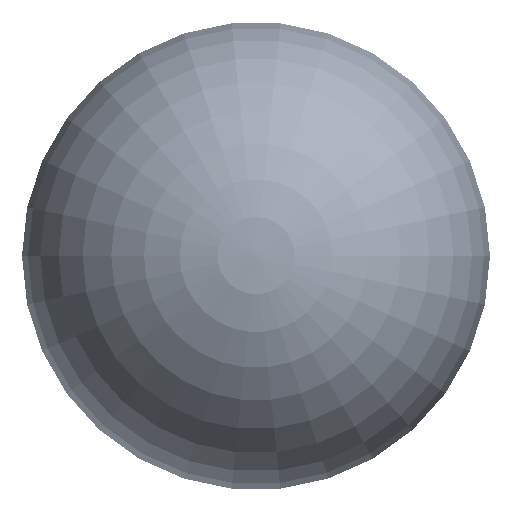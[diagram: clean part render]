
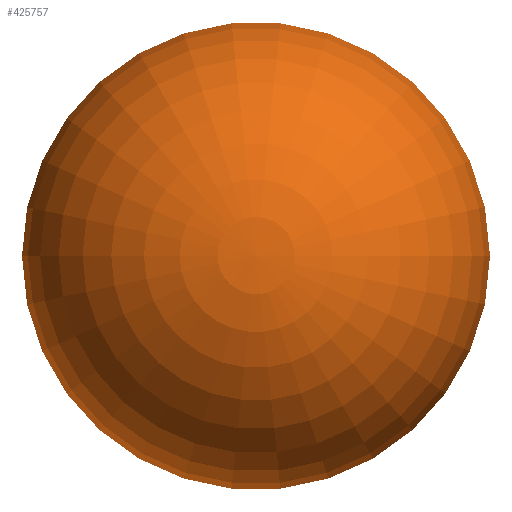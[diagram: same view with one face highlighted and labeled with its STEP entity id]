
A CAD part, top view. The second image highlights one B-rep face of the part: STEP entity #425757.
In plain terms, the highlighted toroidal (fillet/blend) face has major radius 40 mm and minor radius 1061.51 mm.
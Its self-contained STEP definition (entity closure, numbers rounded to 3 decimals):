
#10620 = TOROIDAL_SURFACE ( 'NONE', #302172, 40., 1061.507 ) ;
#13407 = DIRECTION ( 'NONE',  ( 0., 0., -1. ) ) ;
#57580 = CARTESIAN_POINT ( 'NONE',  ( 0.113, -529.536, -648.856 ) ) ;
#62518 = AXIS2_PLACEMENT_3D ( 'NONE', #310599, #474901, #438382 ) ;
#72147 = DIRECTION ( 'NONE',  ( 0., 0., -1. ) ) ;
#77782 = CARTESIAN_POINT ( 'NONE',  ( 0., -529.536, -648.856 ) ) ;
#79979 = ORIENTED_EDGE ( 'NONE', *, *, #174233, .F. ) ;
#88209 = DIRECTION ( 'NONE',  ( 0., 0., -1. ) ) ;
#89081 = CARTESIAN_POINT ( 'NONE',  ( 0., 340., 0. ) ) ;
#92072 = DIRECTION ( 'NONE',  ( 0., 0., -1. ) ) ;
#92350 = CIRCLE ( 'NONE', #500502, 648.856 ) ;
#101352 = CIRCLE ( 'NONE', #144272, 1061.507 ) ;
#102941 = CIRCLE ( 'NONE', #511049, 1061.507 ) ;
#131287 = CARTESIAN_POINT ( 'NONE',  ( 0., 340., -40. ) ) ;
#140532 = ORIENTED_EDGE ( 'NONE', *, *, #183454, .F. ) ;
#144272 = AXIS2_PLACEMENT_3D ( 'NONE', #158835, #437930, #88209 ) ;
#158835 = CARTESIAN_POINT ( 'NONE',  ( 0.007, 340., -40. ) ) ;
#163474 = VERTEX_POINT ( 'NONE', #480751 ) ;
#174233 = EDGE_CURVE ( 'NONE', #163474, #260565, #92350, .T. ) ;
#183454 = EDGE_CURVE ( 'NONE', #289735, #163474, #345502, .T. ) ;
#239493 = EDGE_CURVE ( 'NONE', #289735, #326153, #101352, .T. ) ;
#248180 = DIRECTION ( 'NONE',  ( 0., -1., 0. ) ) ;
#260565 = VERTEX_POINT ( 'NONE', #77782 ) ;
#270326 = DIRECTION ( 'NONE',  ( 0., -1., 0. ) ) ;
#287292 = FACE_OUTER_BOUND ( 'NONE', #473856, .T. ) ;
#289735 = VERTEX_POINT ( 'NONE', #57580 ) ;
#290341 = DIRECTION ( 'NONE',  ( 1., 0., 0. ) ) ;
#302172 = AXIS2_PLACEMENT_3D ( 'NONE', #89081, #248180, #13407 ) ;
#310599 = CARTESIAN_POINT ( 'NONE',  ( 0., -529.536, 0. ) ) ;
#326153 = VERTEX_POINT ( 'NONE', #502628 ) ;
#333574 = ORIENTED_EDGE ( 'NONE', *, *, #388324, .F. ) ;
#345502 = CIRCLE ( 'NONE', #62518, 648.856 ) ;
#388324 = EDGE_CURVE ( 'NONE', #260565, #326153, #102941, .T. ) ;
#425757 = ADVANCED_FACE ( 'NONE', ( #287292 ), #10620, .T. ) ;
#437930 = DIRECTION ( 'NONE',  ( 1., 0., 0. ) ) ;
#438382 = DIRECTION ( 'NONE',  ( 0., 0., -1. ) ) ;
#468613 = CARTESIAN_POINT ( 'NONE',  ( 0., -529.536, 0. ) ) ;
#473856 = EDGE_LOOP ( 'NONE', ( #333574, #79979, #140532, #504227 ) ) ;
#474901 = DIRECTION ( 'NONE',  ( 0., -1., 0. ) ) ;
#480751 = CARTESIAN_POINT ( 'NONE',  ( 0., -529.536, 648.856 ) ) ;
#500502 = AXIS2_PLACEMENT_3D ( 'NONE', #468613, #270326, #72147 ) ;
#502628 = CARTESIAN_POINT ( 'NONE',  ( 0., 1400.753, 0. ) ) ;
#504227 = ORIENTED_EDGE ( 'NONE', *, *, #239493, .T. ) ;
#511049 = AXIS2_PLACEMENT_3D ( 'NONE', #131287, #290341, #92072 ) ;
